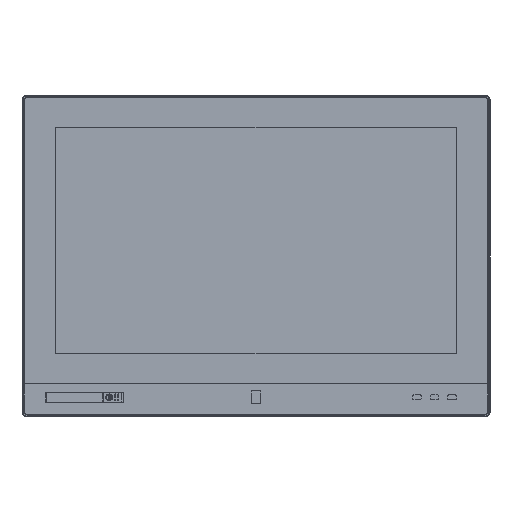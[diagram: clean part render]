
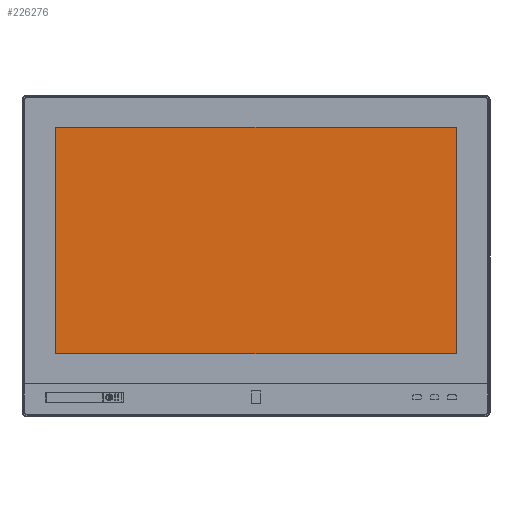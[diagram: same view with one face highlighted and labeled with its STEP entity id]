
A CAD part, top view. The second image highlights one B-rep face of the part: STEP entity #226276.
In plain terms, the highlighted planar face has unit normal (0, 0, 1).
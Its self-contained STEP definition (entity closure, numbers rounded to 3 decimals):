
#77350=DIRECTION('',(0.,1.,0.));
#77351=VECTOR('',#77350,227.);
#77352=CARTESIAN_POINT('',(205.,-112.5,-2.1));
#77353=LINE('',#77352,#77351);
#77362=CARTESIAN_POINT('',(-203.,114.5,-2.1));
#77363=DIRECTION('',(0.,0.,-1.));
#77364=DIRECTION('',(-1.,0.,0.));
#77365=AXIS2_PLACEMENT_3D('',#77362,#77363,#77364);
#77367=CARTESIAN_POINT('',(203.,114.5,-2.1));
#77368=DIRECTION('',(0.,0.,-1.));
#77369=DIRECTION('',(0.,1.,0.));
#77370=AXIS2_PLACEMENT_3D('',#77367,#77368,#77369);
#77372=CARTESIAN_POINT('',(203.,-112.5,-2.1));
#77373=DIRECTION('',(0.,0.,-1.));
#77374=DIRECTION('',(1.,0.,0.));
#77375=AXIS2_PLACEMENT_3D('',#77372,#77373,#77374);
#77377=CARTESIAN_POINT('',(-203.,-112.5,-2.1));
#77378=DIRECTION('',(0.,0.,-1.));
#77379=DIRECTION('',(0.,-1.,0.));
#77380=AXIS2_PLACEMENT_3D('',#77377,#77378,#77379);
#77390=DIRECTION('',(0.,-1.,0.));
#77391=VECTOR('',#77390,227.);
#77392=CARTESIAN_POINT('',(-205.,114.5,-2.1));
#77393=LINE('',#77392,#77391);
#77410=DIRECTION('',(1.,0.,0.));
#77411=VECTOR('',#77410,406.);
#77412=CARTESIAN_POINT('',(-203.,-114.5,-2.1));
#77413=LINE('',#77412,#77411);
#77426=DIRECTION('',(-1.,0.,0.));
#77427=VECTOR('',#77426,406.);
#77428=CARTESIAN_POINT('',(203.,116.5,-2.1));
#77429=LINE('',#77428,#77427);
#98652=CARTESIAN_POINT('',(205.,114.5,-2.1));
#98653=VERTEX_POINT('',#98652);
#98654=CARTESIAN_POINT('',(205.,-112.5,-2.1));
#98655=VERTEX_POINT('',#98654);
#98656=CARTESIAN_POINT('',(203.,116.5,-2.1));
#98657=VERTEX_POINT('',#98656);
#98658=CARTESIAN_POINT('',(-205.,114.5,-2.1));
#98659=CARTESIAN_POINT('',(-203.,116.5,-2.1));
#98660=VERTEX_POINT('',#98658);
#98661=VERTEX_POINT('',#98659);
#98662=CARTESIAN_POINT('',(203.,-114.5,-2.1));
#98663=VERTEX_POINT('',#98662);
#98664=CARTESIAN_POINT('',(-203.,-114.5,-2.1));
#98665=VERTEX_POINT('',#98664);
#98666=CARTESIAN_POINT('',(-205.,-112.5,-2.1));
#98667=VERTEX_POINT('',#98666);
#226255=CARTESIAN_POINT('',(0.,0.,-2.1));
#226256=DIRECTION('',(0.,0.,1.));
#226257=DIRECTION('',(1.,0.,0.));
#226258=AXIS2_PLACEMENT_3D('',#226255,#226256,#226257);
#226259=PLANE('',#226258);
#226261=ORIENTED_EDGE('',*,*,#226260,.T.);
#226263=ORIENTED_EDGE('',*,*,#226262,.F.);
#226264=ORIENTED_EDGE('',*,*,#226246,.T.);
#226265=ORIENTED_EDGE('',*,*,#226236,.F.);
#226267=ORIENTED_EDGE('',*,*,#226266,.T.);
#226269=ORIENTED_EDGE('',*,*,#226268,.F.);
#226271=ORIENTED_EDGE('',*,*,#226270,.T.);
#226273=ORIENTED_EDGE('',*,*,#226272,.F.);
#226274=EDGE_LOOP('',(#226261,#226263,#226264,#226265,#226267,#226269,#226271,
#226273));
#226275=FACE_OUTER_BOUND('',#226274,.F.);
#226276=ADVANCED_FACE('',(#226275),#226259,.T.);
#77366=CIRCLE('',#77365,2.);
#77371=CIRCLE('',#77370,2.);
#77376=CIRCLE('',#77375,2.);
#77381=CIRCLE('',#77380,2.);
#226236=EDGE_CURVE('',#98655,#98653,#77353,.T.);
#226246=EDGE_CURVE('',#98657,#98653,#77371,.T.);
#226260=EDGE_CURVE('',#98660,#98661,#77366,.T.);
#226262=EDGE_CURVE('',#98657,#98661,#77429,.T.);
#226266=EDGE_CURVE('',#98655,#98663,#77376,.T.);
#226268=EDGE_CURVE('',#98665,#98663,#77413,.T.);
#226270=EDGE_CURVE('',#98665,#98667,#77381,.T.);
#226272=EDGE_CURVE('',#98660,#98667,#77393,.T.);
